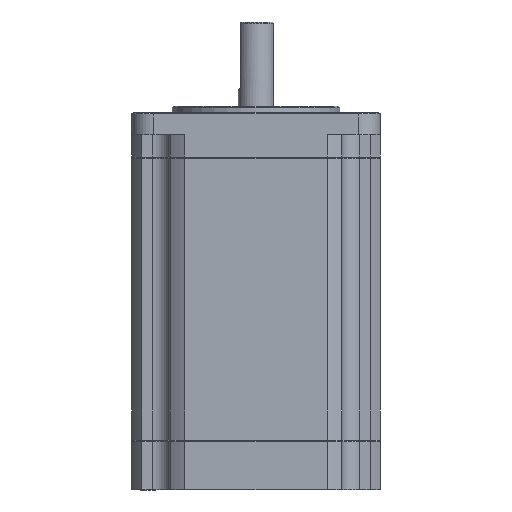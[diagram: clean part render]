
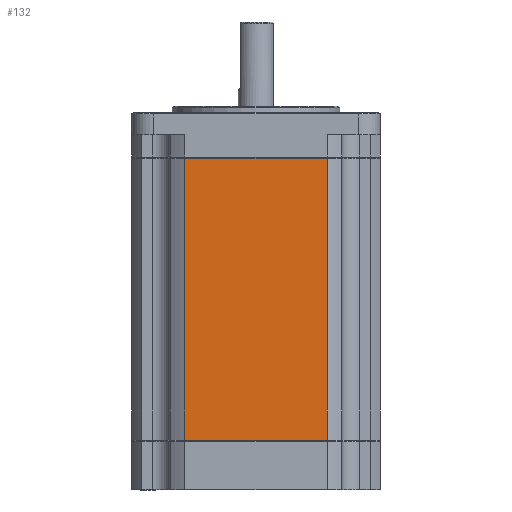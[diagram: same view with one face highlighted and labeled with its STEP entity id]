
A CAD part, front view. The second image highlights one B-rep face of the part: STEP entity #132.
In plain terms, the highlighted planar face has unit normal (0, -1, 0).
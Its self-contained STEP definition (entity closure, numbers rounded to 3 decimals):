
#81 = EDGE_CURVE ( 'NONE', #15135, #2222, #16649, .T. ) ;
#132 = ADVANCED_FACE ( 'NONE', ( #878 ), #6257, .T. ) ;
#460 = CARTESIAN_POINT ( 'NONE',  ( -16.156, -28.2, 0. ) ) ;
#878 = FACE_OUTER_BOUND ( 'NONE', #15873, .T. ) ;
#1189 = DIRECTION ( 'NONE',  ( -1., 0., 0. ) ) ;
#1196 = EDGE_CURVE ( 'NONE', #15135, #14862, #15878, .T. ) ;
#1836 = ORIENTED_EDGE ( 'NONE', *, *, #11266, .T. ) ;
#2222 = VERTEX_POINT ( 'NONE', #15188 ) ;
#2389 = CARTESIAN_POINT ( 'NONE',  ( -16.156, -28.2, -64.05 ) ) ;
#2846 = CARTESIAN_POINT ( 'NONE',  ( 16.156, -28.2, 0. ) ) ;
#4688 = VECTOR ( 'NONE', #1189, 1000. ) ;
#4767 = DIRECTION ( 'NONE',  ( 0., 0., -1. ) ) ;
#5547 = VECTOR ( 'NONE', #4767, 1000. ) ;
#6082 = CARTESIAN_POINT ( 'NONE',  ( 16.156, -28.2, -64.05 ) ) ;
#6257 = PLANE ( 'NONE',  #14256 ) ;
#6283 = DIRECTION ( 'NONE',  ( 1., 0., 0. ) ) ;
#6957 = DIRECTION ( 'NONE',  ( 0., 0., -1. ) ) ;
#7532 = VERTEX_POINT ( 'NONE', #15189 ) ;
#9171 = CARTESIAN_POINT ( 'NONE',  ( 0., -28.2, -64.05 ) ) ;
#9269 = CARTESIAN_POINT ( 'NONE',  ( -16.156, -28.2, 0. ) ) ;
#11266 = EDGE_CURVE ( 'NONE', #14862, #7532, #16282, .T. ) ;
#11619 = DIRECTION ( 'NONE',  ( 0., -1., 0. ) ) ;
#12115 = VECTOR ( 'NONE', #6283, 1000. ) ;
#13177 = EDGE_CURVE ( 'NONE', #7532, #2222, #14458, .T. ) ;
#13512 = VECTOR ( 'NONE', #6957, 1000. ) ;
#13981 = CARTESIAN_POINT ( 'NONE',  ( -16.156, -28.2, -64.05 ) ) ;
#14256 = AXIS2_PLACEMENT_3D ( 'NONE', #2389, #11619, #16984 ) ;
#14401 = ORIENTED_EDGE ( 'NONE', *, *, #13177, .T. ) ;
#14458 = LINE ( 'NONE', #9171, #12115 ) ;
#14862 = VERTEX_POINT ( 'NONE', #460 ) ;
#15135 = VERTEX_POINT ( 'NONE', #2846 ) ;
#15188 = CARTESIAN_POINT ( 'NONE',  ( 16.156, -28.2, -64.05 ) ) ;
#15189 = CARTESIAN_POINT ( 'NONE',  ( -16.156, -28.2, -64.05 ) ) ;
#15323 = ORIENTED_EDGE ( 'NONE', *, *, #81, .F. ) ;
#15873 = EDGE_LOOP ( 'NONE', ( #14401, #15323, #17347, #1836 ) ) ;
#15878 = LINE ( 'NONE', #9269, #4688 ) ;
#16282 = LINE ( 'NONE', #13981, #13512 ) ;
#16649 = LINE ( 'NONE', #6082, #5547 ) ;
#16984 = DIRECTION ( 'NONE',  ( 0., 0., -1. ) ) ;
#17347 = ORIENTED_EDGE ( 'NONE', *, *, #1196, .T. ) ;
